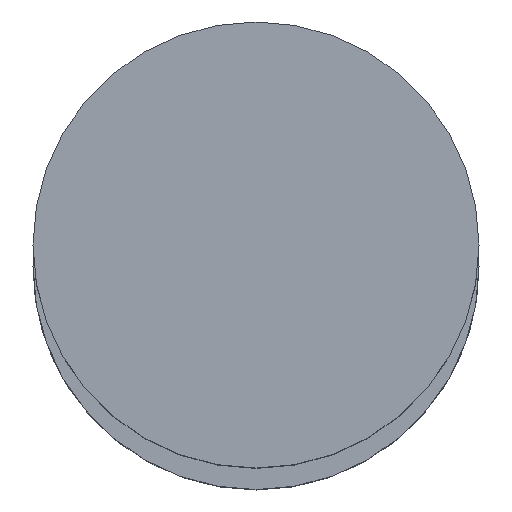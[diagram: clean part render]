
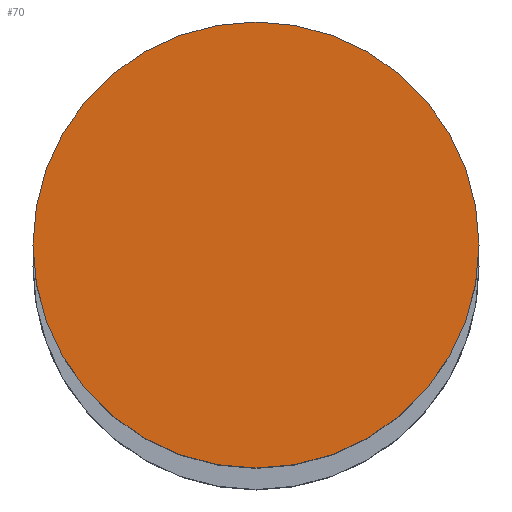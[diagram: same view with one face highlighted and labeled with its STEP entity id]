
A CAD part, top view. The second image highlights one B-rep face of the part: STEP entity #70.
In plain terms, the highlighted planar face has unit normal (0, 0, 1).
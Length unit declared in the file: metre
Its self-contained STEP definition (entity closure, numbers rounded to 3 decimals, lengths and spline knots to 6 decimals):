
#70=ADVANCED_FACE('25:217',(#146),#147,.T.);
#146=FACE_OUTER_BOUND('',#235,.T.);
#147=PLANE('',#236);
#235=EDGE_LOOP('',(#345,#346));
#236=AXIS2_PLACEMENT_3D('',#347,#348,#349);
#345=ORIENTED_EDGE('',*,*,#511,.F.);
#346=ORIENTED_EDGE('',*,*,#512,.F.);
#347=CARTESIAN_POINT('',(0.0,0.0,3.524));
#348=DIRECTION('',(0.0,0.0,1.0));
#349=DIRECTION('',(1.0,0.0,0.0));
#511=EDGE_CURVE('',#608,#609,#610,.F.);
#512=EDGE_CURVE('',#609,#608,#611,.F.);
#608=VERTEX_POINT('',#739);
#609=VERTEX_POINT('',#740);
#610=CIRCLE('',#741,0.0155);
#611=CIRCLE('',#742,0.0155);
#739=CARTESIAN_POINT('',(-0.015592,0.000095,3.524));
#740=CARTESIAN_POINT('',(0.015408,0.000095,3.524));
#741=AXIS2_PLACEMENT_3D('',#863,#864,#865);
#742=AXIS2_PLACEMENT_3D('',#866,#867,#868);
#863=CARTESIAN_POINT('',(-0.000092,0.000095,3.524));
#864=DIRECTION('',(0.0,0.0,1.0));
#865=DIRECTION('',(1.0,0.0,0.0));
#866=CARTESIAN_POINT('',(-0.000092,0.000095,3.524));
#867=DIRECTION('',(0.0,0.0,1.0));
#868=DIRECTION('',(1.0,0.0,0.0));
